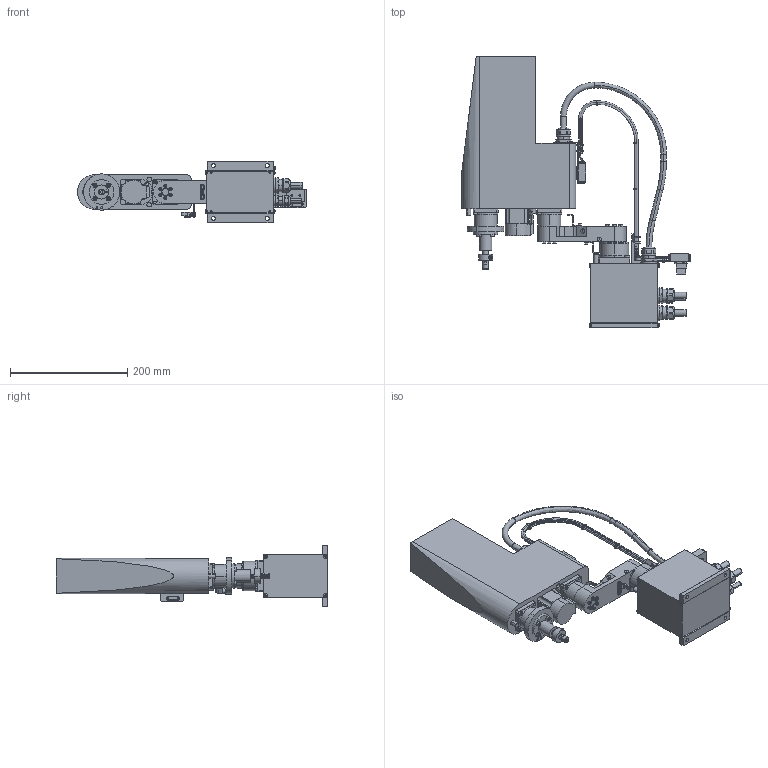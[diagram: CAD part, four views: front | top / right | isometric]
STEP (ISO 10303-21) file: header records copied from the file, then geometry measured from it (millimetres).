
FILE_DESCRIPTION (( 'STEP AP203' ), '1' );
FILE_NAME ('YK220X.STEP', '2005-06-22T10:16:20', ( 'IMロボット技術Gr' ), ( 'ヤマハ発動機' ), 'SwSTEP 2.0', 'SolidWorks 2004334', '' );
FILE_SCHEMA (( 'CONFIG_CONTROL_DESIGN' ));
Length unit declared in the file: millimetre
Products named in the file (9): KBE-M1500A; YK220X; KBE-M1840-220; KBE-M1100_YK220X; KBE-M1100; KBE-M1500A_YK220X; KBE-M2500_YK220X; KBE-M2500
Assembly tree (8 placements, depth 3):
  YK220X
    KBE-M2500_YK220X
      KBE-M2500
    KBE-M1500A_YK220X
      KBE-M1500A
    KBE-M1100_YK220X
      KBE-M1100
    KBE-M1840-220
      KBE-M1840-220
Bounding box: 391 x 463.5 x 105 mm (x, y, z)
Volume: 3759970.8 mm3; surface area: 367714 mm2
Topology: 12 solids, 59 shells, 3011 faces, 7497 edges, 4685 vertices
Faces by surface type: plane 1662, cylinder 848, torus 246, cone 219, sphere 26, bspline 10
Entity records: 90997 total; most frequent: DIRECTION 16416, CARTESIAN_POINT 16260, ORIENTED_EDGE 14774, EDGE_CURVE 7387, AXIS2_PLACEMENT_3D 6125, VERTEX_POINT 4685, LINE 4166, VECTOR 4166
